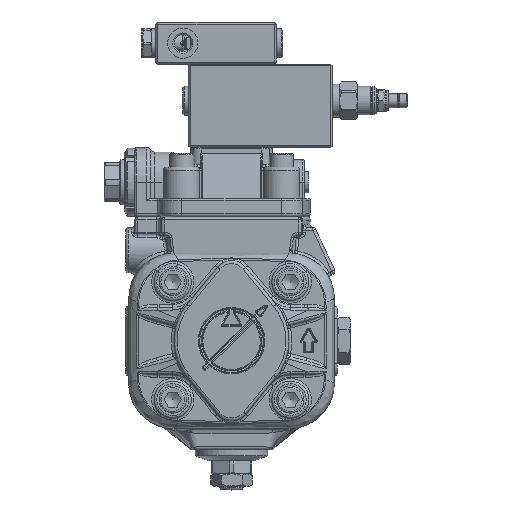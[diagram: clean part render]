
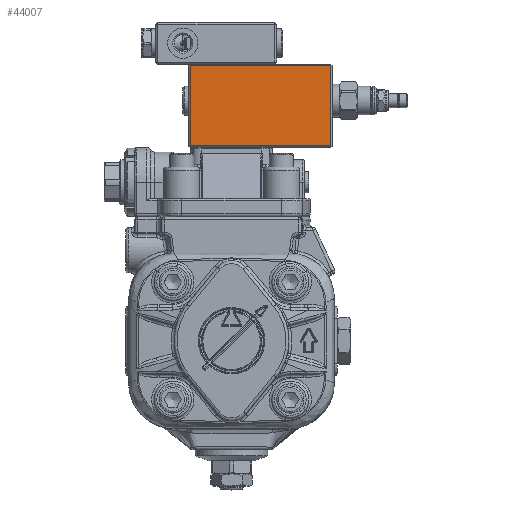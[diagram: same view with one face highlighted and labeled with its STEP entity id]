
A CAD part, top view. The second image highlights one B-rep face of the part: STEP entity #44007.
In plain terms, the highlighted planar face has unit normal (0, 0, 1).
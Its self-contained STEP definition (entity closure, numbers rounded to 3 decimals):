
#6963=FACE_OUTER_BOUND('',#9577,.T.);
#9577=EDGE_LOOP('',(#36351,#36352,#36353,#36354));
#12838=LINE('',#91176,#15193);
#12839=LINE('',#91178,#15194);
#12840=LINE('',#91180,#15195);
#12841=LINE('',#91181,#15196);
#15193=VECTOR('',#58728,10.);
#15194=VECTOR('',#58729,10.);
#15195=VECTOR('',#58730,10.);
#15196=VECTOR('',#58731,10.);
#18892=VERTEX_POINT('',#91174);
#18893=VERTEX_POINT('',#91175);
#18894=VERTEX_POINT('',#91177);
#18895=VERTEX_POINT('',#91179);
#24833=EDGE_CURVE('',#18892,#18893,#12838,.T.);
#24834=EDGE_CURVE('',#18894,#18892,#12839,.T.);
#24835=EDGE_CURVE('',#18895,#18894,#12840,.T.);
#24836=EDGE_CURVE('',#18893,#18895,#12841,.T.);
#36351=ORIENTED_EDGE('',*,*,#24833,.F.);
#36352=ORIENTED_EDGE('',*,*,#24834,.F.);
#36353=ORIENTED_EDGE('',*,*,#24835,.F.);
#36354=ORIENTED_EDGE('',*,*,#24836,.F.);
#39120=PLANE('',#48290);
#44007=ADVANCED_FACE('',(#6963),#39120,.T.);
#48290=AXIS2_PLACEMENT_3D('',#91173,#58726,#58727);
#58726=DIRECTION('center_axis',(0.,0.,
1.));
#58727=DIRECTION('ref_axis',(0.,1.,0.));
#58728=DIRECTION('',(1.,0.,0.));
#58729=DIRECTION('',(0.,1.,0.));
#58730=DIRECTION('',(-1.,0.,0.));
#58731=DIRECTION('',(0.,-1.,0.));
#91173=CARTESIAN_POINT('Origin',(-34.79,170.996,41.252));
#91174=CARTESIAN_POINT('',(-33.79,169.996,41.252));
#91175=CARTESIAN_POINT('',(59.21,169.996,41.252));
#91176=CARTESIAN_POINT('',(-11.04,169.996,41.252));
#91177=CARTESIAN_POINT('',(-33.79,116.996,41.252));
#91178=CARTESIAN_POINT('',(-33.79,170.996,41.252));
#91179=CARTESIAN_POINT('',(59.21,116.996,41.252));
#91180=CARTESIAN_POINT('',(-11.04,116.996,41.252));
#91181=CARTESIAN_POINT('',(59.21,170.996,41.252));
